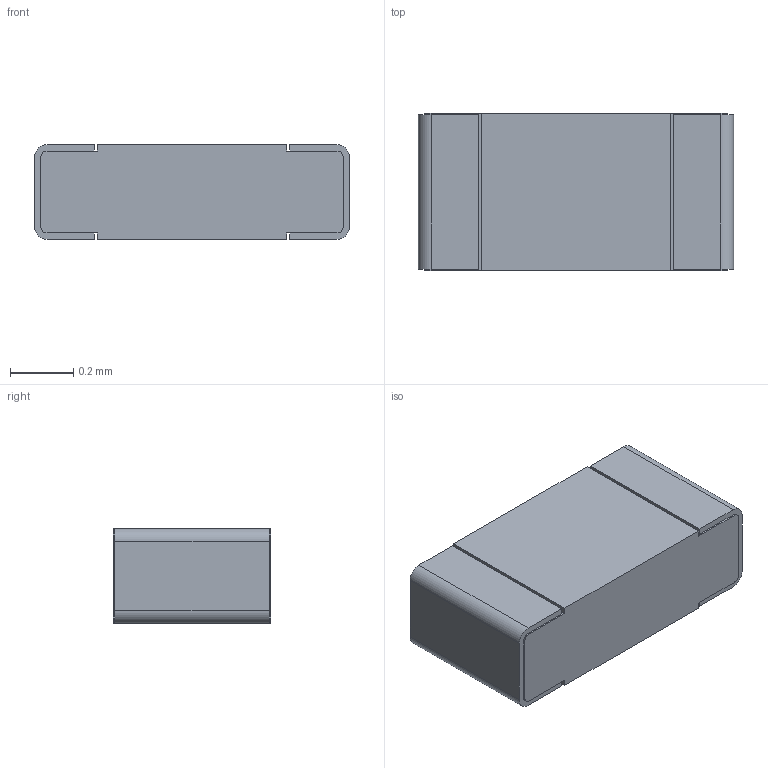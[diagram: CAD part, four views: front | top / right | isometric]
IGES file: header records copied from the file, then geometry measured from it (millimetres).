
Start section:  PTC IGES file: c-1879130-2-ba-3d.igs
Global section: file name: c-1879130-2-ba-3d.igs; native system: Creo Parametric by Parametric Technology Corporation; preprocessor: 2014090; author: workeradm; organization: Unknown; units: millimetre
Bounding box: 1 x 0.5 x 0.3 mm (x, y, z)
Surface area: 1.9 mm2 (no closed solid volume)
Topology: 0 solids, 0 shells, 42 faces, 240 edges, 240 vertices
Faces by surface type: bspline 30, revolution 12
